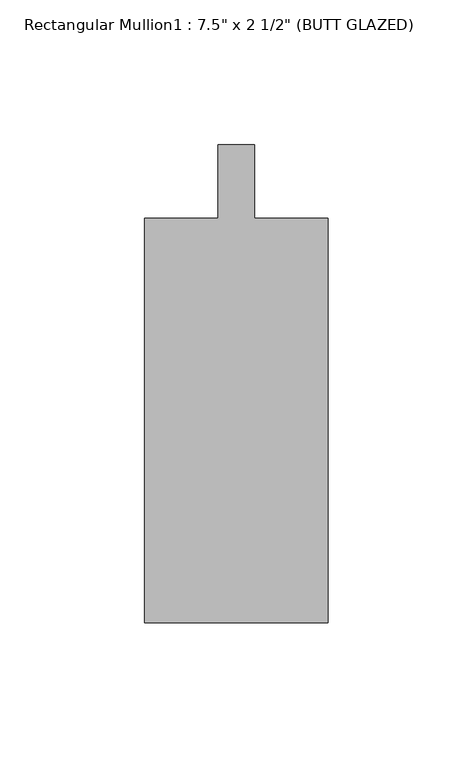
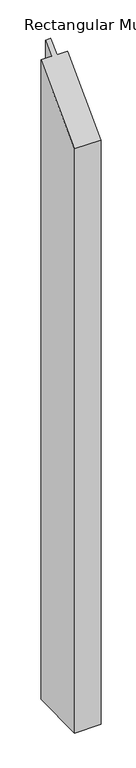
"""IFC4 building model written with IfcOpenShell, lengths in millimetres: member geometry."""

from ifc_helpers import new_model, si_unit, origin, place, context, project, spatial, faceted_brep, source, transform, mapped, element, save


def member_3a684fa5(model_context):
    return source(origin(), model_context, "Body", "Brep", [
        faceted_brep([(31.75, -165.1, -1638.3), (-31.75, -165.1, -1638.3), (-31.75, -25.4, -1638.3), (-6.35, -25.4, -1638.3), (-6.35, 0.0, -1638.3), (6.35, 0.0, -1638.3), (6.35, -25.4, -1638.3), (31.75, -25.4, -1638.3), (31.75, -25.4, -25.4), (31.75, -165.1, -165.1), (6.35, -25.4, -25.4), (6.35, 0.0, 0.0), (-6.35, 0.0, 0.0), (-6.35, -25.4, -25.4), (-31.75, -25.4, -25.4), (-31.75, -165.1, -165.1)], [[[0, 1, 2, 3, 4, 5, 6, 7]], [[8, 9, 0, 7]], [[10, 8, 7, 6]], [[11, 10, 6, 5]], [[12, 11, 5, 4]], [[13, 12, 4, 3]], [[14, 13, 3, 2]], [[15, 14, 2, 1]], [[9, 15, 1, 0]], [[9, 8, 10, 11, 12, 13, 14, 15]]]),
    ])


if __name__ == "__main__":
    model = new_model("IFC4")
    model_context = context("Model", 3, world=origin())
    ifc_project = project(units=[si_unit("LENGTHUNIT", "METRE", prefix="MILLI")], contexts=[model_context])
    site = spatial("IfcSite", under=ifc_project)
    building = spatial("IfcBuilding", under=site)
    placement = place(None, origin())
    member_shape = member_3a684fa5(model_context)
    element("IfcMember", 1, ObjectType="Rectangular Mullion1 : 7.5\" x 2 1/2\" (BUTT GLAZED)", at=placement, inside=building, context=model_context, shape_type="MappedRepresentation", body=[
        mapped(member_shape, transform((0.0, 0.0, 0.0), x_axis=(1.0, 0.0, 0.0), y_axis=(0.0, 1.0, 0.0), z_axis=(0.0, 0.0, 1.0))),
    ])
    save(model, "model.ifc")
